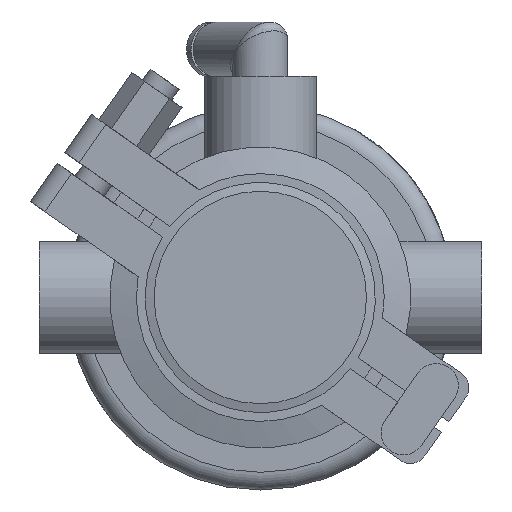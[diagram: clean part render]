
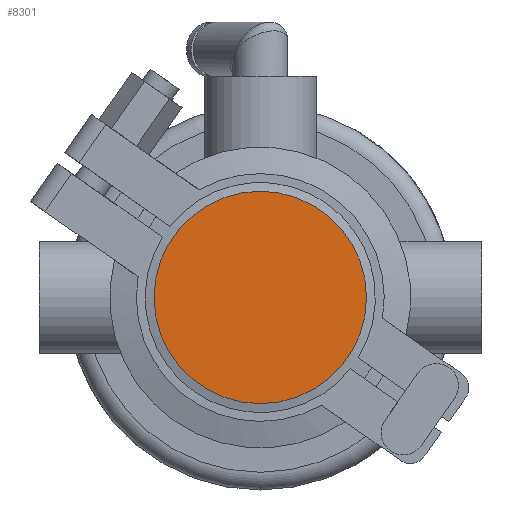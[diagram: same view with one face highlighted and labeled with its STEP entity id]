
A CAD part, front view. The second image highlights one B-rep face of the part: STEP entity #8301.
In plain terms, the highlighted planar face has unit normal (0, -1, 0).
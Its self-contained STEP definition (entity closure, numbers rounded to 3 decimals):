
#1655 = DIRECTION ( 'NONE',  ( 0., 1., 0. ) ) ;
#1847 = DIRECTION ( 'NONE',  ( 0., -1., 0. ) ) ;
#1919 = EDGE_LOOP ( 'NONE', ( #13884 ) ) ;
#2254 = CARTESIAN_POINT ( 'NONE',  ( -24., 0., 0. ) ) ;
#2823 = VERTEX_POINT ( 'NONE', #8999 ) ;
#2890 = CARTESIAN_POINT ( 'NONE',  ( 0., 0., 0. ) ) ;
#5383 = CIRCLE ( 'NONE', #19625, 24. ) ;
#8128 = DIRECTION ( 'NONE',  ( 0., 0., -1. ) ) ;
#8301 = ADVANCED_FACE ( 'NONE', ( #9662 ), #16028, .T. ) ;
#8999 = CARTESIAN_POINT ( 'NONE',  ( 0., 0., 24. ) ) ;
#9662 = FACE_OUTER_BOUND ( 'NONE', #1919, .T. ) ;
#13481 = EDGE_CURVE ( 'NONE', #2823, #2823, #5383, .T. ) ;
#13884 = ORIENTED_EDGE ( 'NONE', *, *, #13481, .F. ) ;
#14289 = DIRECTION ( 'NONE',  ( 0., 0., 1. ) ) ;
#16028 = PLANE ( 'NONE',  #16972 ) ;
#16972 = AXIS2_PLACEMENT_3D ( 'NONE', #2254, #1847, #8128 ) ;
#19625 = AXIS2_PLACEMENT_3D ( 'NONE', #2890, #1655, #14289 ) ;
